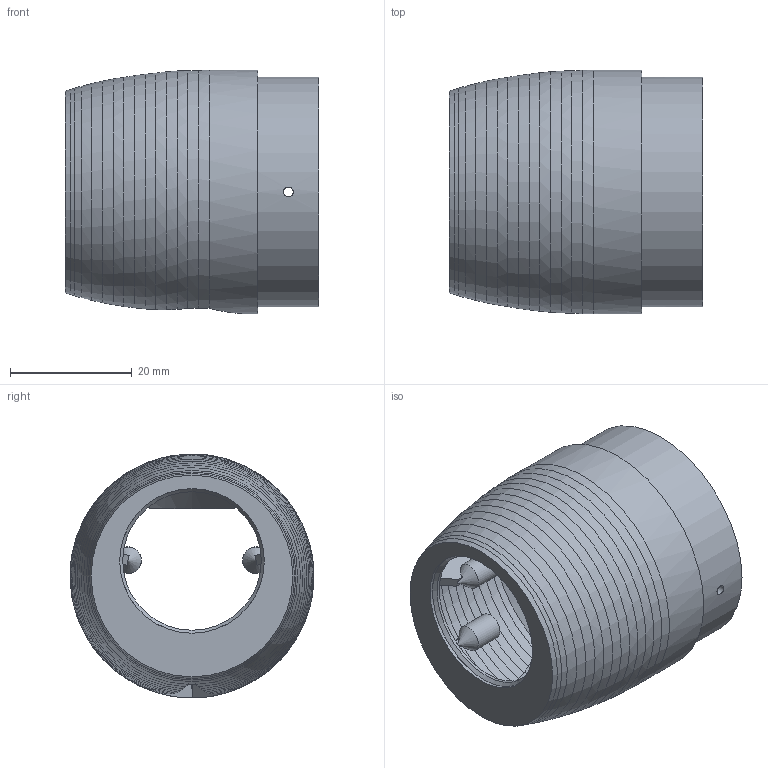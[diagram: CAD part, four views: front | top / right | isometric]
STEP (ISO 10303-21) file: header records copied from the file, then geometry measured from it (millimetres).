
FILE_DESCRIPTION(('SkyG Speed 90B - revision C6B-2 - 2026-10-08','N0P-nose-pi-camera'),'2;1');
FILE_NAME('N0P-nose-pi-camera_C6B-2','2026-10-08T01:12:37',('Author'),( 'Open CASCADE'),'Open CASCADE STEP processor 7.9','Open CASCADE 7.9' ,'Unknown');
FILE_SCHEMA(('AUTOMOTIVE_DESIGN { 1 0 10303 214 1 1 1 1 }'));
Length unit declared in the file: millimetre
Products named in the file (1): N0P-nose-pi-camera C6B-2
Bounding box: 41.6 x 40 x 40 mm (x, y, z)
Volume: 10532.1 mm3; surface area: 12416.1 mm2
Topology: 1 solids, 1 shells, 214 faces, 593 edges, 384 vertices
Faces by surface type: plane 104, cone 53, bspline 32, cylinder 25
Full cylindrical faces by diameter (mm): 1.6 x6, 22.717 x1, 23.724 x1, 33.8 x1, 37.7 x1, 40 x1
Entity records: 16575 total; most frequent: CARTESIAN_POINT 5913, DIRECTION 1700, ORIENTED_EDGE 1178, PCURVE 1178, DEFINITIONAL_REPRESENTATION 1178, LINE 817, VECTOR 817, EDGE_CURVE 589
